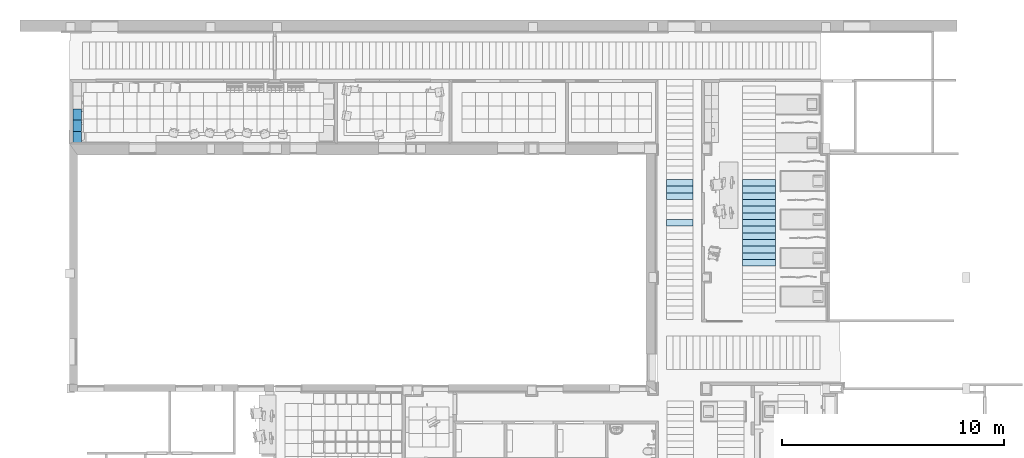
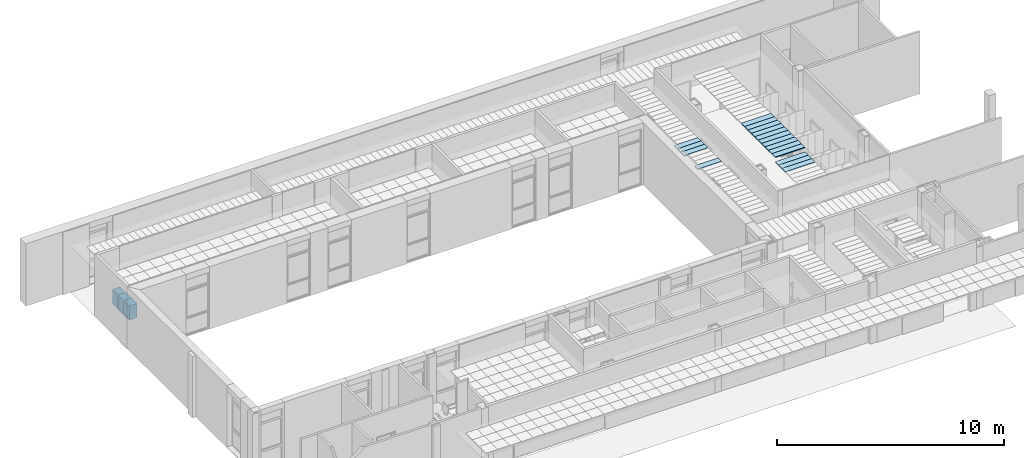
# One storey, part 4 of 68: 20 slabs.
"""IFC2X3 building model written with IfcOpenShell, lengths in millimetres."""

from ifc_helpers import new_model, entity, si_unit, converted_unit, derived_unit, money_unit, direction, frame, origin_with_axes, place, context, subcontext, project, spatial, polyline, outline, extrude, faceted_brep, source, transform, mapped, material, layer, layer_set, layer_usage, type_object, element, save


model = new_model("IFC2X3")

# Units and contexts
model_context = context("Model", 3, precision=0.01, world=origin_with_axes(), true_north=direction((0.0, 1.0)))
body_context = subcontext(model_context, "Body", "Model", "MODEL_VIEW")
ifc_project = project(units=[si_unit("LENGTHUNIT", "METRE", prefix="MILLI"), si_unit("AREAUNIT", "SQUARE_METRE"), si_unit("VOLUMEUNIT", "CUBIC_METRE"), converted_unit("PLANEANGLEUNIT", "DEGREE", entity("IfcPlaneAngleMeasure", 0.0174532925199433), si_unit("PLANEANGLEUNIT", "RADIAN"), dimensions=[0, 0, 0, 0, 0, 0, 0]), money_unit("USD"), converted_unit("TIMEUNIT", "Year", entity("IfcTimeMeasure", 31557600.0), si_unit("TIMEUNIT", "SECOND"), dimensions=[0, 0, 1, 0, 0, 0, 0]), si_unit("MASSUNIT", "GRAM", prefix="KILO"), si_unit("THERMODYNAMICTEMPERATUREUNIT", "DEGREE_CELSIUS"), si_unit("LUMINOUSINTENSITYUNIT", "LUMEN"), si_unit("ENERGYUNIT", "JOULE", prefix="MEGA"), derived_unit("THERMALCONDUCTANCEUNIT", [(si_unit("POWERUNIT", "WATT"), 1), (si_unit("LENGTHUNIT", "METRE"), -1), (si_unit("THERMODYNAMICTEMPERATUREUNIT", "KELVIN"), -1)]), derived_unit("SPECIFICHEATCAPACITYUNIT", [(si_unit("ENERGYUNIT", "JOULE"), 1), (si_unit("MASSUNIT", "GRAM", prefix="KILO"), -1), (si_unit("THERMODYNAMICTEMPERATUREUNIT", "KELVIN"), -1)]), derived_unit("MASSDENSITYUNIT", [(si_unit("MASSUNIT", "GRAM", prefix="KILO"), 1), (si_unit("VOLUMEUNIT", "CUBIC_METRE"), -1)])], contexts=[model_context])

# Site, building, storey
site_placement = place(None, origin_with_axes())
site = spatial("IfcSite", under=ifc_project, at=site_placement, Name="Sitio", CompositionType="ELEMENT")
building_placement = place(site_placement, origin_with_axes())
building = spatial("IfcBuilding", under=site, at=building_placement, Name="Construcción", CompositionType="ELEMENT")
storey_placement = place(building_placement, origin_with_axes())
storey = spatial("IfcBuildingStorey", under=building, at=storey_placement, Name="PLANTA 1ª", CompositionType="ELEMENT", Elevation=0.0)

# Slabs
slab_type_1 = type_object("IfcSlabType", Name="Armario Mural 27", PredefinedType="FLOOR")
shared_shape = source(origin_with_axes(), body_context, "Body", "Brep", [
    faceted_brep([(18.0, -380.0, 1871.0), (482.0, -380.0, 1871.0), (482.0, -380.0, 1889.0), (18.0, -380.0, 1889.0), (18.0, -18.0, 1871.0), (482.0, -18.0, 1871.0), (482.0, -18.0, 1889.0), (18.0, -18.0, 1889.0)], [[[0, 1, 2, 3]], [[0, 4, 5, 1]], [[1, 5, 6, 2]], [[3, 2, 6, 7]], [[4, 0, 3, 7]], [[5, 4, 7, 6]]]),
    faceted_brep([(401.8682408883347, -398.0, 1932.799038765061), (402.7101007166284, -398.0, 1932.573463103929), (403.5, -398.0, 1932.205127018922), (404.2139380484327, -398.0, 1931.705222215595), (404.8302222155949, -398.0, 1931.088938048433), (405.3301270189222, -398.0, 1930.375), (405.6984631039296, -398.0, 1929.585100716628), (405.9240387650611, -398.0, 1928.743240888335), (406.0, -398.0, 1927.875), (405.9240387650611, -398.0, 1927.006759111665), (405.6984631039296, -398.0, 1926.164899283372), (405.3301270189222, -398.0, 1925.375), (404.8302222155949, -398.0, 1924.661061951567), (404.2139380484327, -398.0, 1924.044777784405), (403.5, -398.0, 1923.544872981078), (402.7101007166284, -398.0, 1923.176536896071), (401.8682408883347, -398.0, 1922.950961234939), (401.0, -398.0, 1922.875), (400.1317591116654, -398.0, 1922.950961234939), (399.2898992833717, -398.0, 1923.176536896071), (398.5, -398.0, 1923.544872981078), (397.7860619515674, -398.0, 1924.044777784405), (397.1697777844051, -398.0, 1924.661061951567), (396.6698729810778, -398.0, 1925.375), (396.3015368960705, -398.0, 1926.164899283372), (396.075961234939, -398.0, 1927.006759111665), (396.0, -398.0, 1927.875), (396.075961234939, -398.0, 1928.743240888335), (396.3015368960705, -398.0, 1929.585100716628), (396.6698729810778, -398.0, 1930.375), (397.1697777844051, -398.0, 1931.088938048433), (397.7860619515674, -398.0, 1931.705222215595), (398.5, -398.0, 1932.205127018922), (399.2898992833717, -398.0, 1932.573463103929), (400.1317591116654, -398.0, 1932.799038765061), (401.0, -398.0, 1932.875), (401.8682408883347, -423.0000000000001, 1932.799038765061), (402.7101007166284, -423.0000000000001, 1932.573463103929), (403.5, -423.0000000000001, 1932.205127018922), (404.2139380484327, -423.0000000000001, 1931.705222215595), (404.8302222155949, -423.0000000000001, 1931.088938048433), (405.3301270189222, -423.0000000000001, 1930.375), (405.6984631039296, -423.0000000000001, 1929.585100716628), (405.9240387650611, -423.0000000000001, 1928.743240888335), (406.0, -423.0000000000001, 1927.875), (405.9240387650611, -423.0000000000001, 1927.006759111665), (405.6984631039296, -423.0000000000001, 1926.164899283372), (405.3301270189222, -423.0000000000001, 1925.375), (404.8302222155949, -423.0000000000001, 1924.661061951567), (404.2139380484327, -423.0000000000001, 1924.044777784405), (403.5, -423.0000000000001, 1923.544872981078), (402.7101007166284, -423.0000000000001, 1923.176536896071), (401.8682408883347, -423.0000000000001, 1922.950961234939), (401.0, -423.0000000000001, 1922.875), (400.1317591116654, -423.0000000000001, 1922.950961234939), (399.2898992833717, -423.0000000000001, 1923.176536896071), (398.5, -423.0000000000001, 1923.544872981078), (397.7860619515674, -423.0000000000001, 1924.044777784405), (397.1697777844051, -423.0000000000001, 1924.661061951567), (396.6698729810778, -423.0000000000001, 1925.375), (396.3015368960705, -423.0000000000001, 1926.164899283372), (396.075961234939, -423.0000000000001, 1927.006759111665), (396.0, -423.0000000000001, 1927.875), (396.075961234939, -423.0000000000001, 1928.743240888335), (396.3015368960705, -423.0000000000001, 1929.585100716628), (396.6698729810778, -423.0000000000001, 1930.375), (397.1697777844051, -423.0000000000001, 1931.088938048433), (397.7860619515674, -423.0000000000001, 1931.705222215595), (398.5, -423.0000000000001, 1932.205127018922), (399.2898992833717, -423.0000000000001, 1932.573463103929), (400.1317591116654, -423.0000000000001, 1932.799038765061), (401.0, -423.0000000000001, 1932.875)], [[[0, 1, 2, 3, 4, 5, 6, 7, 8, 9, 10, 11, 12, 13, 14, 15, 16, 17, 18, 19, 20, 21, 22, 23, 24, 25, 26, 27, 28, 29, 30, 31, 32, 33, 34, 35]], [[1, 0, 36, 37]], [[2, 1, 37, 38]], [[3, 2, 38, 39]], [[4, 3, 39, 40]], [[5, 4, 40, 41]], [[6, 5, 41, 42]], [[7, 6, 42, 43]], [[8, 7, 43, 44]], [[9, 8, 44, 45]], [[10, 9, 45, 46]], [[11, 10, 46, 47]], [[12, 11, 47, 48]], [[13, 12, 48, 49]], [[14, 13, 49, 50]], [[15, 14, 50, 51]], [[16, 15, 51, 52]], [[17, 16, 52, 53]], [[18, 17, 53, 54]], [[19, 18, 54, 55]], [[20, 19, 55, 56]], [[21, 20, 56, 57]], [[22, 21, 57, 58]], [[23, 22, 58, 59]], [[24, 23, 59, 60]], [[25, 24, 60, 61]], [[26, 25, 61, 62]], [[27, 26, 62, 63]], [[28, 27, 63, 64]], [[29, 28, 64, 65]], [[30, 29, 65, 66]], [[31, 30, 66, 67]], [[32, 31, 67, 68]], [[33, 32, 68, 69]], [[34, 33, 69, 70]], [[35, 34, 70, 71]], [[0, 35, 71, 36]], [[36, 71, 70, 69, 68, 67, 66, 65, 64, 63, 62, 61, 60, 59, 58, 57, 56, 55, 54, 53, 52, 51, 50, 49, 48, 47, 46, 45, 44, 43, 42, 41, 40, 39, 38, 37]]]),
    faceted_brep([(401.8682408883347, -397.9999999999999, 1829.200961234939), (401.0, -397.9999999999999, 1829.125), (400.1317591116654, -397.9999999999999, 1829.200961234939), (399.2898992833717, -397.9999999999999, 1829.426536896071), (398.5, -397.9999999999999, 1829.794872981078), (397.7860619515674, -397.9999999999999, 1830.294777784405), (397.1697777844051, -397.9999999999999, 1830.911061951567), (396.6698729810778, -397.9999999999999, 1831.625), (396.3015368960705, -397.9999999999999, 1832.414899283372), (396.075961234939, -397.9999999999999, 1833.256759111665), (396.0, -397.9999999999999, 1834.125), (396.075961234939, -397.9999999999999, 1834.993240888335), (396.3015368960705, -397.9999999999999, 1835.835100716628), (396.6698729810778, -397.9999999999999, 1836.625), (397.1697777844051, -397.9999999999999, 1837.338938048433), (397.7860619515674, -397.9999999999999, 1837.955222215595), (398.5, -397.9999999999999, 1838.455127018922), (399.2898992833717, -397.9999999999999, 1838.823463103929), (400.1317591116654, -397.9999999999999, 1839.049038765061), (401.0, -397.9999999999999, 1839.125), (401.8682408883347, -397.9999999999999, 1839.049038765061), (402.7101007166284, -397.9999999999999, 1838.823463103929), (403.5, -397.9999999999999, 1838.455127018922), (404.2139380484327, -397.9999999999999, 1837.955222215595), (404.8302222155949, -397.9999999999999, 1837.338938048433), (405.3301270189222, -397.9999999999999, 1836.625), (405.6984631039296, -397.9999999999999, 1835.835100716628), (405.9240387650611, -397.9999999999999, 1834.993240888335), (406.0, -397.9999999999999, 1834.125), (405.9240387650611, -397.9999999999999, 1833.256759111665), (405.6984631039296, -397.9999999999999, 1832.414899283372), (405.3301270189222, -397.9999999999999, 1831.625), (404.8302222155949, -397.9999999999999, 1830.911061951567), (404.2139380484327, -397.9999999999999, 1830.294777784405), (403.5, -397.9999999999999, 1829.794872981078), (402.7101007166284, -397.9999999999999, 1829.426536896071), (401.8682408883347, -423.0, 1829.200961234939), (401.0, -423.0, 1829.125), (400.1317591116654, -423.0, 1829.200961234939), (399.2898992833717, -423.0, 1829.426536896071), (398.5, -423.0, 1829.794872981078), (397.7860619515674, -423.0, 1830.294777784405), (397.1697777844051, -423.0, 1830.911061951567), (396.6698729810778, -423.0, 1831.625), (396.3015368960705, -423.0, 1832.414899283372), (396.075961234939, -423.0, 1833.256759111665), (396.0, -423.0, 1834.125), (396.075961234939, -423.0, 1834.993240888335), (396.3015368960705, -423.0, 1835.835100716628), (396.6698729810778, -423.0, 1836.625), (397.1697777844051, -423.0, 1837.338938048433), (397.7860619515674, -423.0, 1837.955222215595), (398.5, -423.0, 1838.455127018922), (399.2898992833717, -423.0, 1838.823463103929), (400.1317591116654, -423.0, 1839.049038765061), (401.0, -423.0, 1839.125), (401.8682408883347, -423.0, 1839.049038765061), (402.7101007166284, -423.0, 1838.823463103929), (403.5, -423.0, 1838.455127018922), (404.2139380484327, -423.0, 1837.955222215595), (404.8302222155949, -423.0, 1837.338938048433), (405.3301270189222, -423.0, 1836.625), (405.6984631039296, -423.0, 1835.835100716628), (405.9240387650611, -423.0, 1834.993240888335), (406.0, -423.0, 1834.125), (405.9240387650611, -423.0, 1833.256759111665), (405.6984631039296, -423.0, 1832.414899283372), (405.3301270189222, -423.0, 1831.625), (404.8302222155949, -423.0, 1830.911061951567), (404.2139380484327, -423.0, 1830.294777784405), (403.5, -423.0, 1829.794872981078), (402.7101007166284, -423.0, 1829.426536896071)], [[[0, 1, 2, 3, 4, 5, 6, 7, 8, 9, 10, 11, 12, 13, 14, 15, 16, 17, 18, 19, 20, 21, 22, 23, 24, 25, 26, 27, 28, 29, 30, 31, 32, 33, 34, 35]], [[0, 36, 37, 1]], [[1, 37, 38, 2]], [[2, 38, 39, 3]], [[3, 39, 40, 4]], [[4, 40, 41, 5]], [[5, 41, 42, 6]], [[6, 42, 43, 7]], [[7, 43, 44, 8]], [[8, 44, 45, 9]], [[9, 45, 46, 10]], [[10, 46, 47, 11]], [[11, 47, 48, 12]], [[12, 48, 49, 13]], [[13, 49, 50, 14]], [[14, 50, 51, 15]], [[15, 51, 52, 16]], [[16, 52, 53, 17]], [[17, 53, 54, 18]], [[18, 54, 55, 19]], [[19, 55, 56, 20]], [[20, 56, 57, 21]], [[21, 57, 58, 22]], [[22, 58, 59, 23]], [[23, 59, 60, 24]], [[24, 60, 61, 25]], [[25, 61, 62, 26]], [[26, 62, 63, 27]], [[27, 63, 64, 28]], [[28, 64, 65, 29]], [[29, 65, 66, 30]], [[30, 66, 67, 31]], [[31, 67, 68, 32]], [[32, 68, 69, 33]], [[33, 69, 70, 34]], [[34, 70, 71, 35]], [[35, 71, 36, 0]], [[36, 71, 70, 69, 68, 67, 66, 65, 64, 63, 62, 61, 60, 59, 58, 57, 56, 55, 54, 53, 52, 51, 50, 49, 48, 47, 46, 45, 44, 43, 42, 41, 40, 39, 38, 37]]]),
    faceted_brep([(401.8682408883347, -418.075961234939, 1806.0), (402.7101007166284, -418.3015368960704, 1806.0), (403.5, -418.6698729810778, 1806.0), (404.2139380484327, -419.1697777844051, 1806.0), (404.8302222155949, -419.7860619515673, 1806.0), (405.3301270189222, -420.5, 1806.0), (405.6984631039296, -421.2898992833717, 1806.0), (405.9240387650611, -422.1317591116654, 1806.0), (406.0, -423.0, 1806.0), (405.9240387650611, -423.8682408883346, 1806.0), (405.6984631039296, -424.7101007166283, 1806.0), (405.3301270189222, -425.5, 1806.0), (404.8302222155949, -426.2139380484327, 1806.0), (404.2139380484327, -426.8302222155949, 1806.0), (403.5, -427.3301270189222, 1806.0), (402.7101007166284, -427.6984631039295, 1806.0), (401.8682408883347, -427.924038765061, 1806.0), (401.0, -428.0, 1806.0), (400.1317591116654, -427.924038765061, 1806.0), (399.2898992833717, -427.6984631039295, 1806.0), (398.5, -427.3301270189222, 1806.0), (397.7860619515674, -426.8302222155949, 1806.0), (397.1697777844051, -426.2139380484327, 1806.0), (396.6698729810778, -425.5, 1806.0), (396.3015368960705, -424.7101007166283, 1806.0), (396.075961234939, -423.8682408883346, 1806.0), (396.0, -423.0, 1806.0), (396.075961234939, -422.1317591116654, 1806.0), (396.3015368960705, -421.2898992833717, 1806.0), (396.6698729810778, -420.5, 1806.0), (397.1697777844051, -419.7860619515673, 1806.0), (397.7860619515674, -419.1697777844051, 1806.0), (398.5, -418.6698729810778, 1806.0), (399.2898992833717, -418.3015368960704, 1806.0), (400.1317591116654, -418.075961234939, 1806.0), (401.0, -418.0, 1806.0), (401.8682408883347, -418.075961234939, 1956.0), (402.7101007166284, -418.3015368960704, 1956.0), (403.5, -418.6698729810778, 1956.0), (404.2139380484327, -419.1697777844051, 1956.0), (404.8302222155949, -419.7860619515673, 1956.0), (405.3301270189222, -420.5, 1956.0), (405.6984631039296, -421.2898992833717, 1956.0), (405.9240387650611, -422.1317591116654, 1956.0), (406.0, -423.0, 1956.0), (405.9240387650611, -423.8682408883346, 1956.0), (405.6984631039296, -424.7101007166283, 1956.0), (405.3301270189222, -425.5, 1956.0), (404.8302222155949, -426.2139380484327, 1956.0), (404.2139380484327, -426.8302222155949, 1956.0), (403.5, -427.3301270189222, 1956.0), (402.7101007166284, -427.6984631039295, 1956.0), (401.8682408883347, -427.924038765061, 1956.0), (401.0, -428.0, 1956.0), (400.1317591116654, -427.924038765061, 1956.0), (399.2898992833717, -427.6984631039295, 1956.0), (398.5, -427.3301270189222, 1956.0), (397.7860619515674, -426.8302222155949, 1956.0), (397.1697777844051, -426.2139380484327, 1956.0), (396.6698729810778, -425.5, 1956.0), (396.3015368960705, -424.7101007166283, 1956.0), (396.075961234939, -423.8682408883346, 1956.0), (396.0, -423.0, 1956.0), (396.075961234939, -422.1317591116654, 1956.0), (396.3015368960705, -421.2898992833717, 1956.0), (396.6698729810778, -420.5, 1956.0), (397.1697777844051, -419.7860619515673, 1956.0), (397.7860619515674, -419.1697777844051, 1956.0), (398.5, -418.6698729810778, 1956.0), (399.2898992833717, -418.3015368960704, 1956.0), (400.1317591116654, -418.075961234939, 1956.0), (401.0, -418.0, 1956.0)], [[[0, 1, 2, 3, 4, 5, 6, 7, 8, 9, 10, 11, 12, 13, 14, 15, 16, 17, 18, 19, 20, 21, 22, 23, 24, 25, 26, 27, 28, 29, 30, 31, 32, 33, 34, 35]], [[1, 0, 36, 37]], [[2, 1, 37, 38]], [[3, 2, 38, 39]], [[4, 3, 39, 40]], [[5, 4, 40, 41]], [[6, 5, 41, 42]], [[7, 6, 42, 43]], [[8, 7, 43, 44]], [[9, 8, 44, 45]], [[10, 9, 45, 46]], [[11, 10, 46, 47]], [[12, 11, 47, 48]], [[13, 12, 48, 49]], [[14, 13, 49, 50]], [[15, 14, 50, 51]], [[16, 15, 51, 52]], [[17, 16, 52, 53]], [[18, 17, 53, 54]], [[19, 18, 54, 55]], [[20, 19, 55, 56]], [[21, 20, 56, 57]], [[22, 21, 57, 58]], [[23, 22, 58, 59]], [[24, 23, 59, 60]], [[25, 24, 60, 61]], [[26, 25, 61, 62]], [[27, 26, 62, 63]], [[28, 27, 63, 64]], [[29, 28, 64, 65]], [[30, 29, 65, 66]], [[31, 30, 66, 67]], [[32, 31, 67, 68]], [[33, 32, 68, 69]], [[34, 33, 69, 70]], [[35, 34, 70, 71]], [[0, 35, 71, 36]], [[36, 71, 70, 69, 68, 67, 66, 65, 64, 63, 62, 61, 60, 59, 58, 57, 56, 55, 54, 53, 52, 51, 50, 49, 48, 47, 46, 45, 44, 43, 42, 41, 40, 39, 38, 37]]]),
    faceted_brep([(1.0, -380.0, 1501.0), (499.0, -380.0, 1501.0), (499.0, -398.0, 1501.0), (1.0, -398.0, 1501.0), (1.0, -379.9999999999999, 2259.0), (499.0, -379.9999999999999, 2259.0), (499.0, -397.9999999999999, 2259.0), (1.0, -397.9999999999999, 2259.0)], [[[0, 1, 2, 3]], [[0, 4, 5, 1]], [[1, 5, 6, 2]], [[3, 2, 6, 7]], [[4, 0, 3, 7]], [[5, 4, 7, 6]]]),
    faceted_brep([(18.0, -380.0, 1500.0), (482.0, -380.0, 1500.0), (482.0, -380.0, 1518.0), (18.0, -380.0, 1518.0), (18.0, 0.0, 1500.0), (482.0, 0.0, 1500.0), (482.0, 0.0, 1518.0), (18.0, 0.0, 1518.0)], [[[0, 1, 2, 3]], [[0, 4, 5, 1]], [[1, 5, 6, 2]], [[3, 2, 6, 7]], [[4, 0, 3, 7]], [[5, 4, 7, 6]]]),
    faceted_brep([(18.0, -380.0, 2242.0), (482.0, -380.0, 2242.0), (482.0, -380.0, 2260.0), (18.0, -380.0, 2260.0), (18.0, 0.0, 2242.0), (482.0, 0.0, 2242.0), (482.0, 0.0, 2260.0), (18.0, 0.0, 2260.0)], [[[0, 1, 2, 3]], [[0, 4, 5, 1]], [[1, 5, 6, 2]], [[3, 2, 6, 7]], [[4, 0, 3, 7]], [[5, 4, 7, 6]]]),
    faceted_brep([(0.0, 0.0, 1500.0), (0.0, -380.0, 1500.0), (0.0, -380.0, 2260.0), (0.0, 0.0, 2260.0), (18.0, 0.0, 1500.0), (18.0, -380.0, 1500.0), (18.0, -380.0, 2260.0), (18.0, 0.0, 2260.0)], [[[0, 1, 2, 3]], [[0, 4, 5, 1]], [[1, 5, 6, 2]], [[3, 2, 6, 7]], [[4, 0, 3, 7]], [[5, 4, 7, 6]]]),
    faceted_brep([(500.0, -380.0, 1500.0), (500.0, 0.0, 1500.0), (500.0, 0.0, 2260.0), (500.0, -380.0, 2260.0), (482.0, -380.0, 1500.0), (482.0, 0.0, 1500.0), (482.0, 0.0, 2260.0), (482.0, -380.0, 2260.0)], [[[0, 1, 2, 3]], [[0, 4, 5, 1]], [[1, 5, 6, 2]], [[3, 2, 6, 7]], [[4, 0, 3, 7]], [[5, 4, 7, 6]]]),
    faceted_brep([(482.0, -9.0, 1518.0), (18.00000000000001, -9.0, 1518.0), (18.00000000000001, -9.0, 2242.0), (482.0, -9.0, 2242.0), (482.0, -18.0, 1518.0), (18.00000000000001, -18.0, 1518.0), (18.00000000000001, -18.0, 2242.0), (482.0, -18.0, 2242.0)], [[[0, 1, 2, 3]], [[0, 4, 5, 1]], [[1, 5, 6, 2]], [[3, 2, 6, 7]], [[4, 0, 3, 7]], [[5, 4, 7, 6]]]),
])
for number, where, z_axis, x_axis in (
    (1, (-27904.84818028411, -1128.975823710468, -59.99999999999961), (0.0, 0.0, 1.0), (0.0, 1.0, 0.0)),
    (2, (-27904.84818028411, -628.9758237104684, -59.99999999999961), (0.0, 0.0, 1.0), (0.0, 1.0, 0.0)),
    (3, (-27904.84818028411, -128.9758237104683, -59.99999999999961), (0.0, 0.0, 1.0), (0.0, 1.0, 0.0)),
):
    element("IfcSlab", number, at=place(storey_placement, frame(where, z_axis=z_axis, x_axis=x_axis)), inside=storey, type_object=slab_type_1, Name="60.20.50 Armari", PredefinedType="FLOOR", context=body_context, shape_type="MappedRepresentation", body=[
        mapped(shared_shape, transform((0.0, 0.0, 0.0))),
    ])
ifc_material = material(Name="ARQ_ME126_CelRas_Placa_Metallica")
ifc_layer = layer(ifc_material, 50.0, ventilated="UNKNOWN")
ifc_layer_set = layer_set([ifc_layer], Name="ARQ_ME126_CelRas_Placa_Metallica 50")
ifc_layer_usage_1 = layer_usage(ifc_layer_set, "AXIS3", "NEGATIVE", 50.0)
slab_type_2 = type_object("IfcSlabType", Name="ARQ_ME126_CelRas_Placa_Metallica 50", PredefinedType="NOTDEFINED")
slab_1_placement = place(storey_placement, frame((-1192.609613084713, -3699.146944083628, 2500.0), z_axis=(0.0, 0.0, 1.0), x_axis=(1.0, 0.0, 0.0)))
element("IfcSlab", 4, at=slab_1_placement, inside=storey, type_object=slab_type_2, material=ifc_layer_usage_1, Name="SLA - 026", PredefinedType="NOTDEFINED", context=body_context, shape_type="SweptSolid", body=[
    extrude(outline(polyline([(0.0, 0.0), (1199.999999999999, 0.0), (1199.999999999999, 299.9999999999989), (0.0, 299.9999999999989), (0.0, 0.0)])), frame((0.0, 0.0, -50.0), z_axis=(0.0, 0.0, 1.0), x_axis=(1.0, 0.0, 0.0)), (0.0, 0.0, 1.0), 50.0),
])
ifc_layer_usage_2 = layer_usage(ifc_layer_set, "AXIS3", "NEGATIVE", 50.0)
slab_2_placement = place(storey_placement, frame((-1192.609613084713, -3099.146944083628, 2500.0), z_axis=(0.0, 0.0, 1.0), x_axis=(1.0, 0.0, 0.0)))
element("IfcSlab", 5, at=slab_2_placement, inside=storey, type_object=slab_type_2, material=ifc_layer_usage_2, Name="SLA - 026", PredefinedType="NOTDEFINED", context=body_context, shape_type="SweptSolid", body=[
    extrude(outline(polyline([(0.0, 0.0), (1199.999999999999, 0.0), (1199.999999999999, 299.9999999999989), (0.0, 299.9999999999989), (0.0, 0.0)])), frame((0.0, 0.0, -50.0), z_axis=(0.0, 0.0, 1.0), x_axis=(1.0, 0.0, 0.0)), (0.0, 0.0, 1.0), 50.0),
])
ifc_layer_usage_3 = layer_usage(ifc_layer_set, "AXIS3", "NEGATIVE", 50.0)
slab_3_placement = place(storey_placement, frame((-1192.609613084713, -3399.146944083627, 2500.0), z_axis=(0.0, 0.0, 1.0), x_axis=(1.0, 0.0, 0.0)))
element("IfcSlab", 6, at=slab_3_placement, inside=storey, type_object=slab_type_2, material=ifc_layer_usage_3, Name="SLA - 026", PredefinedType="NOTDEFINED", context=body_context, shape_type="SweptSolid", body=[
    extrude(outline(polyline([(0.0, 0.0), (1199.999999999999, 0.0), (1199.999999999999, 299.9999999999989), (0.0, 299.9999999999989), (0.0, 0.0)])), frame((0.0, 0.0, -50.0), z_axis=(0.0, 0.0, 1.0), x_axis=(1.0, 0.0, 0.0)), (0.0, 0.0, 1.0), 50.0),
])
ifc_layer_usage_4 = layer_usage(ifc_layer_set, "AXIS3", "NEGATIVE", 50.0)
slab_4_placement = place(storey_placement, frame((-1192.609613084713, -4899.146944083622, 2500.0), z_axis=(0.0, 0.0, 1.0), x_axis=(1.0, 0.0, 0.0)))
element("IfcSlab", 7, at=slab_4_placement, inside=storey, type_object=slab_type_2, material=ifc_layer_usage_4, Name="SLA - 026", PredefinedType="NOTDEFINED", context=body_context, shape_type="SweptSolid", body=[
    extrude(outline(polyline([(0.0, 0.0), (1199.999999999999, 0.0), (1199.999999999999, 299.9999999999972), (0.0, 299.9999999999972), (0.0, 0.0)])), frame((0.0, 0.0, -50.0), z_axis=(0.0, 0.0, 1.0), x_axis=(1.0, 0.0, 0.0)), (0.0, 0.0, 1.0), 50.0),
])
ifc_layer_usage_5 = layer_usage(ifc_layer_set, "AXIS3", "NEGATIVE", 50.0)
slab_5_placement = place(storey_placement, frame((3726.829256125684, -6399.14694408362, 2250.0), z_axis=(0.0, 0.0, 1.0), x_axis=(1.0, 0.0, 0.0)))
element("IfcSlab", 8, at=slab_5_placement, inside=storey, type_object=slab_type_2, material=ifc_layer_usage_5, Name="SLA - 026", PredefinedType="NOTDEFINED", context=body_context, shape_type="SweptSolid", body=[
    extrude(outline(polyline([(0.0, 0.0), (-1500.0, 0.0), (-1500.0, -299.9999999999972), (0.0, -299.9999999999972), (0.0, 0.0)])), frame((0.0, 0.0, -50.0), z_axis=(0.0, 0.0, 1.0), x_axis=(1.0, 0.0, 0.0)), (0.0, 0.0, 1.0), 50.0),
])
ifc_layer_usage_6 = layer_usage(ifc_layer_set, "AXIS3", "NEGATIVE", 50.0)
slab_6_placement = place(storey_placement, frame((3726.829256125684, -6099.146944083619, 2250.0), z_axis=(0.0, 0.0, 1.0), x_axis=(1.0, 0.0, 0.0)))
element("IfcSlab", 9, at=slab_6_placement, inside=storey, type_object=slab_type_2, material=ifc_layer_usage_6, Name="SLA - 026", PredefinedType="NOTDEFINED", context=body_context, shape_type="SweptSolid", body=[
    extrude(outline(polyline([(0.0, 0.0), (-1500.0, 0.0), (-1500.0, -299.9999999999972), (0.0, -299.9999999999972), (0.0, 0.0)])), frame((0.0, 0.0, -50.0), z_axis=(0.0, 0.0, 1.0), x_axis=(1.0, 0.0, 0.0)), (0.0, 0.0, 1.0), 50.0),
])
ifc_layer_usage_7 = layer_usage(ifc_layer_set, "AXIS3", "NEGATIVE", 50.0)
slab_7_placement = place(storey_placement, frame((3726.829256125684, -5499.14694408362, 2500.0), z_axis=(0.0, 0.0, 1.0), x_axis=(1.0, 0.0, 0.0)))
element("IfcSlab", 10, at=slab_7_placement, inside=storey, type_object=slab_type_2, material=ifc_layer_usage_7, Name="SLA - 026", PredefinedType="NOTDEFINED", context=body_context, shape_type="SweptSolid", body=[
    extrude(outline(polyline([(0.0, 0.0), (-1500.0, 0.0), (-1500.0, -299.9999999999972), (0.0, -299.9999999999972), (0.0, 0.0)])), frame((0.0, 0.0, -50.0), z_axis=(0.0, 0.0, 1.0), x_axis=(1.0, 0.0, 0.0)), (0.0, 0.0, 1.0), 50.0),
])
ifc_layer_usage_8 = layer_usage(ifc_layer_set, "AXIS3", "NEGATIVE", 50.0)
slab_8_placement = place(storey_placement, frame((3726.829256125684, -5199.14694408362, 2500.0), z_axis=(0.0, 0.0, 1.0), x_axis=(1.0, 0.0, 0.0)))
element("IfcSlab", 11, at=slab_8_placement, inside=storey, type_object=slab_type_2, material=ifc_layer_usage_8, Name="SLA - 026", PredefinedType="NOTDEFINED", context=body_context, shape_type="SweptSolid", body=[
    extrude(outline(polyline([(0.0, 0.0), (-1500.0, 0.0), (-1500.0, -299.9999999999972), (0.0, -299.9999999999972), (0.0, 0.0)])), frame((0.0, 0.0, -50.0), z_axis=(0.0, 0.0, 1.0), x_axis=(1.0, 0.0, 0.0)), (0.0, 0.0, 1.0), 50.0),
])
ifc_layer_usage_9 = layer_usage(ifc_layer_set, "AXIS3", "NEGATIVE", 50.0)
slab_9_placement = place(storey_placement, frame((3726.829256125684, -4899.14694408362, 2500.0), z_axis=(0.0, 0.0, 1.0), x_axis=(1.0, 0.0, 0.0)))
element("IfcSlab", 12, at=slab_9_placement, inside=storey, type_object=slab_type_2, material=ifc_layer_usage_9, Name="SLA - 026", PredefinedType="NOTDEFINED", context=body_context, shape_type="SweptSolid", body=[
    extrude(outline(polyline([(0.0, 0.0), (-1500.0, 0.0), (-1500.0, -299.9999999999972), (0.0, -299.9999999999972), (0.0, 0.0)])), frame((0.0, 0.0, -50.0), z_axis=(0.0, 0.0, 1.0), x_axis=(1.0, 0.0, 0.0)), (0.0, 0.0, 1.0), 50.0),
])
ifc_layer_usage_10 = layer_usage(ifc_layer_set, "AXIS3", "NEGATIVE", 50.0)
slab_10_placement = place(storey_placement, frame((3726.829256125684, -4599.146944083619, 2500.0), z_axis=(0.0, 0.0, 1.0), x_axis=(1.0, 0.0, 0.0)))
element("IfcSlab", 13, at=slab_10_placement, inside=storey, type_object=slab_type_2, material=ifc_layer_usage_10, Name="SLA - 026", PredefinedType="NOTDEFINED", context=body_context, shape_type="SweptSolid", body=[
    extrude(outline(polyline([(0.0, 0.0), (-1500.0, 0.0), (-1500.0, -299.9999999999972), (0.0, -299.9999999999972), (0.0, 0.0)])), frame((0.0, 0.0, -50.0), z_axis=(0.0, 0.0, 1.0), x_axis=(1.0, 0.0, 0.0)), (0.0, 0.0, 1.0), 50.0),
])
ifc_layer_usage_11 = layer_usage(ifc_layer_set, "AXIS3", "NEGATIVE", 50.0)
slab_11_placement = place(storey_placement, frame((3726.829256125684, -4299.14694408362, 2500.0), z_axis=(0.0, 0.0, 1.0), x_axis=(1.0, 0.0, 0.0)))
element("IfcSlab", 14, at=slab_11_placement, inside=storey, type_object=slab_type_2, material=ifc_layer_usage_11, Name="SLA - 026", PredefinedType="NOTDEFINED", context=body_context, shape_type="SweptSolid", body=[
    extrude(outline(polyline([(0.0, 0.0), (-1500.0, 0.0), (-1500.0, -299.9999999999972), (0.0, -299.9999999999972), (0.0, 0.0)])), frame((0.0, 0.0, -50.0), z_axis=(0.0, 0.0, 1.0), x_axis=(1.0, 0.0, 0.0)), (0.0, 0.0, 1.0), 50.0),
])
ifc_layer_usage_12 = layer_usage(ifc_layer_set, "AXIS3", "NEGATIVE", 50.0)
slab_12_placement = place(storey_placement, frame((3726.829256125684, -3999.14694408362, 2500.0), z_axis=(0.0, 0.0, 1.0), x_axis=(1.0, 0.0, 0.0)))
element("IfcSlab", 15, at=slab_12_placement, inside=storey, type_object=slab_type_2, material=ifc_layer_usage_12, Name="SLA - 026", PredefinedType="NOTDEFINED", context=body_context, shape_type="SweptSolid", body=[
    extrude(outline(polyline([(0.0, 0.0), (-1500.0, 0.0), (-1500.0, -299.9999999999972), (0.0, -299.9999999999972), (0.0, 0.0)])), frame((0.0, 0.0, -50.0), z_axis=(0.0, 0.0, 1.0), x_axis=(1.0, 0.0, 0.0)), (0.0, 0.0, 1.0), 50.0),
])
ifc_layer_usage_13 = layer_usage(ifc_layer_set, "AXIS3", "NEGATIVE", 50.0)
slab_13_placement = place(storey_placement, frame((3726.829256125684, -3699.14694408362, 2500.0), z_axis=(0.0, 0.0, 1.0), x_axis=(1.0, 0.0, 0.0)))
element("IfcSlab", 16, at=slab_13_placement, inside=storey, type_object=slab_type_2, material=ifc_layer_usage_13, Name="SLA - 026", PredefinedType="NOTDEFINED", context=body_context, shape_type="SweptSolid", body=[
    extrude(outline(polyline([(0.0, 0.0), (-1500.0, 0.0), (-1500.0, -299.9999999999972), (0.0, -299.9999999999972), (0.0, 0.0)])), frame((0.0, 0.0, -50.0), z_axis=(0.0, 0.0, 1.0), x_axis=(1.0, 0.0, 0.0)), (0.0, 0.0, 1.0), 50.0),
])
ifc_layer_usage_14 = layer_usage(ifc_layer_set, "AXIS3", "NEGATIVE", 50.0)
slab_14_placement = place(storey_placement, frame((3726.829256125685, -3399.14694408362, 2500.0), z_axis=(0.0, 0.0, 1.0), x_axis=(1.0, 0.0, 0.0)))
element("IfcSlab", 17, at=slab_14_placement, inside=storey, type_object=slab_type_2, material=ifc_layer_usage_14, Name="SLA - 026", PredefinedType="NOTDEFINED", context=body_context, shape_type="SweptSolid", body=[
    extrude(outline(polyline([(0.0, 0.0), (-1500.0, 0.0), (-1500.0, -299.9999999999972), (0.0, -299.9999999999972), (0.0, 0.0)])), frame((0.0, 0.0, -50.0), z_axis=(0.0, 0.0, 1.0), x_axis=(1.0, 0.0, 0.0)), (0.0, 0.0, 1.0), 50.0),
])
ifc_layer_usage_15 = layer_usage(ifc_layer_set, "AXIS3", "NEGATIVE", 50.0)
slab_15_placement = place(storey_placement, frame((3726.829256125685, -3099.14694408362, 2500.0), z_axis=(0.0, 0.0, 1.0), x_axis=(1.0, 0.0, 0.0)))
element("IfcSlab", 18, at=slab_15_placement, inside=storey, type_object=slab_type_2, material=ifc_layer_usage_15, Name="SLA - 026", PredefinedType="NOTDEFINED", context=body_context, shape_type="SweptSolid", body=[
    extrude(outline(polyline([(0.0, 0.0), (-1500.0, 0.0), (-1500.0, -299.9999999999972), (0.0, -299.9999999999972), (0.0, 0.0)])), frame((0.0, 0.0, -50.0), z_axis=(0.0, 0.0, 1.0), x_axis=(1.0, 0.0, 0.0)), (0.0, 0.0, 1.0), 50.0),
])
ifc_layer_usage_16 = layer_usage(ifc_layer_set, "AXIS3", "NEGATIVE", 50.0)
slab_16_placement = place(storey_placement, frame((3726.829256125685, -2799.146944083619, 2500.0), z_axis=(0.0, 0.0, 1.0), x_axis=(1.0, 0.0, 0.0)))
element("IfcSlab", 19, at=slab_16_placement, inside=storey, type_object=slab_type_2, material=ifc_layer_usage_16, Name="SLA - 026", PredefinedType="NOTDEFINED", context=body_context, shape_type="SweptSolid", body=[
    extrude(outline(polyline([(0.0, 0.0), (-1500.0, 0.0), (-1500.0, -299.9999999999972), (0.0, -299.9999999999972), (0.0, 0.0)])), frame((0.0, 0.0, -50.0), z_axis=(0.0, 0.0, 1.0), x_axis=(1.0, 0.0, 0.0)), (0.0, 0.0, 1.0), 50.0),
])
ifc_layer_usage_17 = layer_usage(ifc_layer_set, "AXIS3", "NEGATIVE", 50.0)
slab_17_placement = place(storey_placement, frame((3726.829256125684, -5799.146944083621, 2250.0), z_axis=(0.0, 0.0, 1.0), x_axis=(1.0, 0.0, 0.0)))
element("IfcSlab", 20, at=slab_17_placement, inside=storey, type_object=slab_type_2, material=ifc_layer_usage_17, Name="SLA - 026", PredefinedType="NOTDEFINED", context=body_context, shape_type="SweptSolid", body=[
    extrude(outline(polyline([(0.0, 0.0), (-1500.0, 0.0), (-1500.0, -299.9999999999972), (0.0, -299.9999999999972), (0.0, 0.0)])), frame((0.0, 0.0, -50.0), z_axis=(0.0, 0.0, 1.0), x_axis=(1.0, 0.0, 0.0)), (0.0, 0.0, 1.0), 50.0),
])

save(model, "model.ifc")
